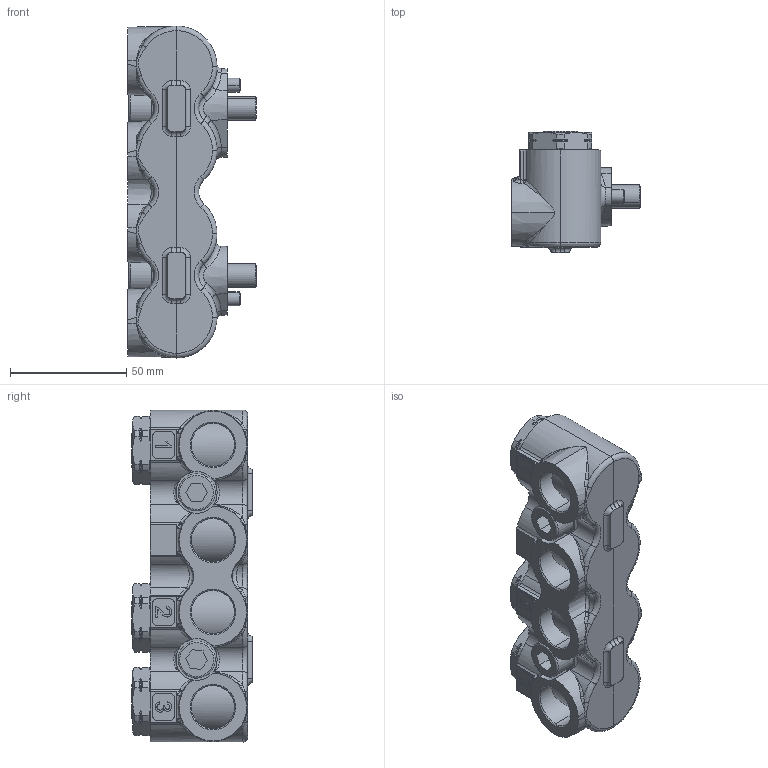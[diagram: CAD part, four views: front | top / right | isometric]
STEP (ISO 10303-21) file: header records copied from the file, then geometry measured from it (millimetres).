
FILE_DESCRIPTION (( 'STEP AP214' ), '1' );
FILE_NAME ('P7318-3A.STEP', '2023-05-25T09:07:54', ( '' ), ( '' ), 'SwSTEP 2.0', 'SolidWorks 2021', '' );
FILE_SCHEMA (( 'AUTOMOTIVE_DESIGN' ));
Length unit declared in the file: millimetre
Products named in the file (1): P7318-3A
Bounding box: 55.5 x 52 x 143 mm (x, y, z)
Volume: 213999.7 mm3; surface area: 51305 mm2
Topology: 20 solids, 20 shells, 827 faces, 2031 edges, 1269 vertices
Faces by surface type: cylinder 222, cone 177, bspline 169, plane 165, torus 94
Entity records: 43170 total; most frequent: CARTESIAN_POINT 15780, ORIENTED_EDGE 4054, DIRECTION 3450, EDGE_CURVE 2027, AXIS2_PLACEMENT_3D 1435, VERTEX_POINT 1269, EDGE_LOOP 872, UNCERTAINTY_MEASURE_WITH_UNIT 849
